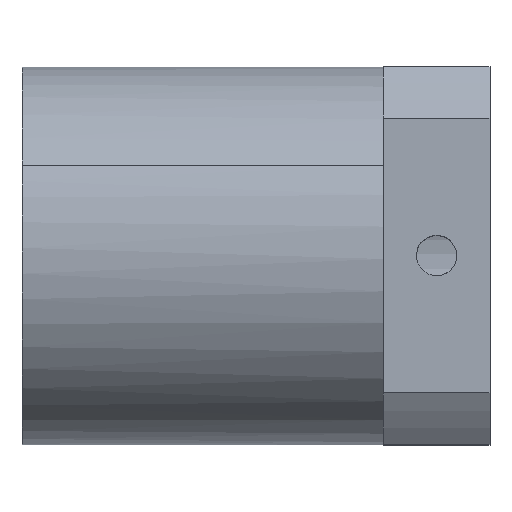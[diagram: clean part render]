
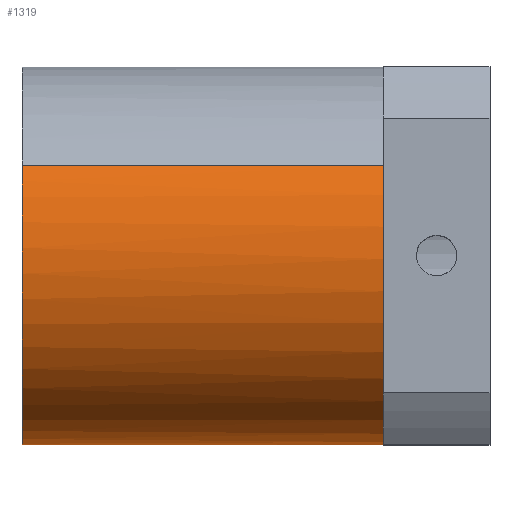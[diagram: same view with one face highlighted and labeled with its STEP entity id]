
A CAD part, top view. The second image highlights one B-rep face of the part: STEP entity #1319.
In plain terms, the highlighted cylindrical face has radius 23 mm (diameter 46 mm), a partial arc.
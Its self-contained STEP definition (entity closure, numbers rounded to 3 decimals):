
#689=CARTESIAN_POINT('Vertex',(-13.,-23.,0.)) ;
#1014=CARTESIAN_POINT('Axis2P3D Location',(-13.,0.,0.)) ;
#1018=CARTESIAN_POINT('Vertex',(-13.,-11.027,-20.184)) ;
#1076=CARTESIAN_POINT('Vertex',(-13.,11.027,20.184)) ;
#1079=CARTESIAN_POINT('Axis2P3D Location',(-13.,0.,0.)) ;
#1164=CARTESIAN_POINT('Control Point',(-57.,-11.027,-20.184)) ;
#1165=CARTESIAN_POINT('Control Point',(-57.,-12.882,-19.171)) ;
#1166=CARTESIAN_POINT('Control Point',(-57.,-14.622,-17.944)) ;
#1167=CARTESIAN_POINT('Control Point',(-57.,-16.212,-16.521)) ;
#1168=CARTESIAN_POINT('Control Point',(-57.,-19.036,-13.336)) ;
#1169=CARTESIAN_POINT('Control Point',(-57.,-21.065,-9.594)) ;
#1170=CARTESIAN_POINT('Control Point',(-57.,-21.859,-7.614)) ;
#1171=CARTESIAN_POINT('Control Point',(-57.,-22.977,-3.506)) ;
#1172=CARTESIAN_POINT('Control Point',(-57.,-23.135,0.747)) ;
#1173=CARTESIAN_POINT('Control Point',(-57.,-22.967,2.874)) ;
#1174=CARTESIAN_POINT('Control Point',(-57.,-22.148,7.051)) ;
#1175=CARTESIAN_POINT('Control Point',(-57.,-20.401,10.934)) ;
#1176=CARTESIAN_POINT('Control Point',(-57.,-19.308,12.766)) ;
#1177=CARTESIAN_POINT('Control Point',(-57.,-16.72,16.145)) ;
#1178=CARTESIAN_POINT('Control Point',(-57.,-13.433,18.85)) ;
#1179=CARTESIAN_POINT('Control Point',(-57.,-11.64,20.007)) ;
#1180=CARTESIAN_POINT('Control Point',(-57.,-7.821,21.888)) ;
#1181=CARTESIAN_POINT('Control Point',(-57.,-3.675,22.853)) ;
#1182=CARTESIAN_POINT('Control Point',(-57.,-1.556,23.094)) ;
#1183=CARTESIAN_POINT('Control Point',(-57.,2.349,23.086)) ;
#1184=CARTESIAN_POINT('Control Point',(-57.,6.158,22.266)) ;
#1185=CARTESIAN_POINT('Control Point',(-57.,7.849,21.728)) ;
#1186=CARTESIAN_POINT('Control Point',(-57.,9.479,21.03)) ;
#1187=CARTESIAN_POINT('Control Point',(-57.,11.027,20.184)) ;
#1188=CARTESIAN_POINT('Vertex',(-57.,11.027,20.184)) ;
#1190=CARTESIAN_POINT('Vertex',(-57.,-11.027,-20.184)) ;
#1297=CARTESIAN_POINT('Axis2P3D Location',(-89.911,0.,0.)) ;
#1302=CARTESIAN_POINT('Line Origine',(-89.911,-11.027,-20.184)) ;
#1307=CARTESIAN_POINT('Line Origine',(-89.911,11.027,20.184)) ;
#1015=DIRECTION('Axis2P3D Direction',(-1.,0.,0.)) ;
#1080=DIRECTION('Axis2P3D Direction',(-1.,0.,0.)) ;
#1298=DIRECTION('Axis2P3D Direction',(-1.,0.,0.)) ;
#1299=DIRECTION('Axis2P3D XDirection',(0.,-0.479,-0.878)) ;
#1303=DIRECTION('Vector Direction',(-1.,0.,0.)) ;
#1308=DIRECTION('Vector Direction',(-1.,0.,0.)) ;
#1016=AXIS2_PLACEMENT_3D('Circle Axis2P3D',#1014,#1015,$) ;
#1081=AXIS2_PLACEMENT_3D('Circle Axis2P3D',#1079,#1080,$) ;
#1300=AXIS2_PLACEMENT_3D('Cylinder Axis2P3D',#1297,#1298,#1299) ;
#1313=ORIENTED_EDGE('',*,*,#1306,.F.) ;
#1314=ORIENTED_EDGE('',*,*,#1020,.T.) ;
#1315=ORIENTED_EDGE('',*,*,#1083,.T.) ;
#1316=ORIENTED_EDGE('',*,*,#1311,.T.) ;
#1317=ORIENTED_EDGE('',*,*,#1192,.T.) ;
#1304=VECTOR('Line Direction',#1303,1.) ;
#1309=VECTOR('Line Direction',#1308,1.) ;
#1319=ADVANCED_FACE('PartBody',(#1318),#1301,.T.) ;
#1163=B_SPLINE_CURVE_WITH_KNOTS('',5,(#1164,#1165,#1166,#1167,#1168,#1169,#1170,#1171,#1172,#1173,#1174,#1175,#1176,#1177,#1178,#1179,#1180,#1181,#1182,#1183,#1184,#1185,#1186,#1187),.UNSPECIFIED.,.F.,.U.,(6,3,3,3,3,3,3,6),(0.,14.952,29.904,44.855,59.807,74.759,89.711,102.186),.UNSPECIFIED.) ;
#1017=CIRCLE('generated circle',#1016,23.) ;
#1082=CIRCLE('generated circle',#1081,23.) ;
#1301=CYLINDRICAL_SURFACE('generated cylinder',#1300,23.) ;
#1020=EDGE_CURVE('',#1019,#690,#1017,.T.) ;
#1083=EDGE_CURVE('',#690,#1077,#1082,.T.) ;
#1192=EDGE_CURVE('',#1189,#1191,#1163,.F.) ;
#1306=EDGE_CURVE('',#1019,#1191,#1305,.T.) ;
#1311=EDGE_CURVE('',#1077,#1189,#1310,.T.) ;
#1312=EDGE_LOOP('',(#1313,#1314,#1315,#1316,#1317)) ;
#1318=FACE_OUTER_BOUND('',#1312,.T.) ;
#1305=LINE('Line',#1302,#1304) ;
#1310=LINE('Line',#1307,#1309) ;
#690=VERTEX_POINT('',#689) ;
#1019=VERTEX_POINT('',#1018) ;
#1077=VERTEX_POINT('',#1076) ;
#1189=VERTEX_POINT('',#1188) ;
#1191=VERTEX_POINT('',#1190) ;
